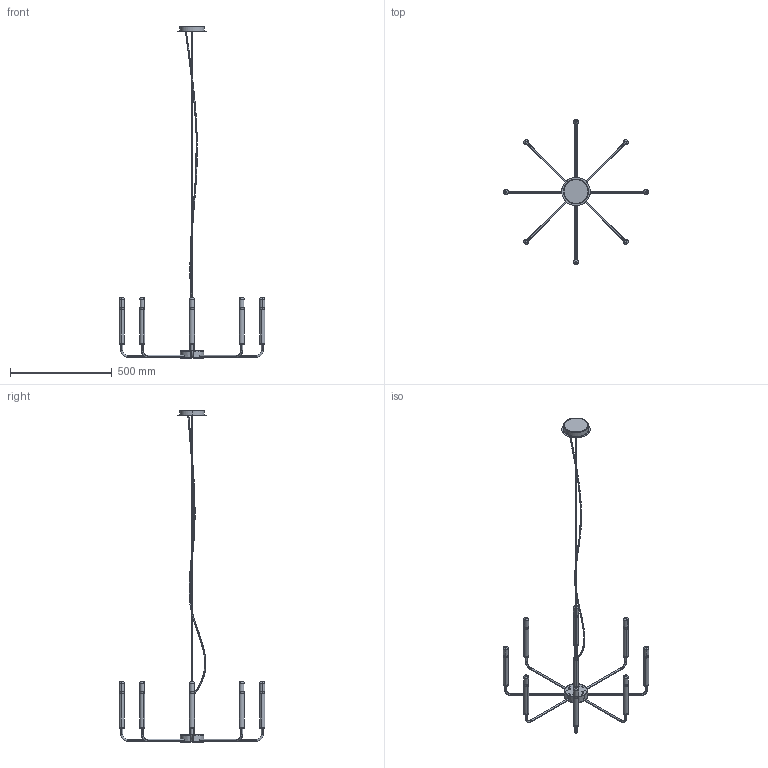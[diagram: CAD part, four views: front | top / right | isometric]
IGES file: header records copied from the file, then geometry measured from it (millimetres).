
Start section: SolidWorks IGES file using analytic representation for surfaces
Global section: file name: C:\Users\anna.bielnik\Desktop\ORTO-VIII-x\ORTO-VIII-rr\8Z³o¿enie1 pm.IGS; native system: SolidWorks 2023; preprocessor: SolidWorks 2023; author: anna.bielnik; date: 241113.115711; units: millimetre
Bounding box: 715 x 715 x 1629.83 mm (x, y, z)
Surface area: 668136.7 mm2 (no closed solid volume)
Topology: 0 solids, 0 shells, 484 faces, 10764 edges, 10764 vertices
Faces by surface type: revolution 280, bspline 204
